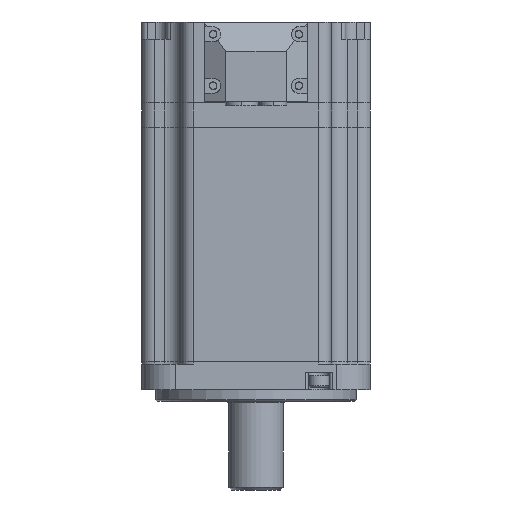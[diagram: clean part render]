
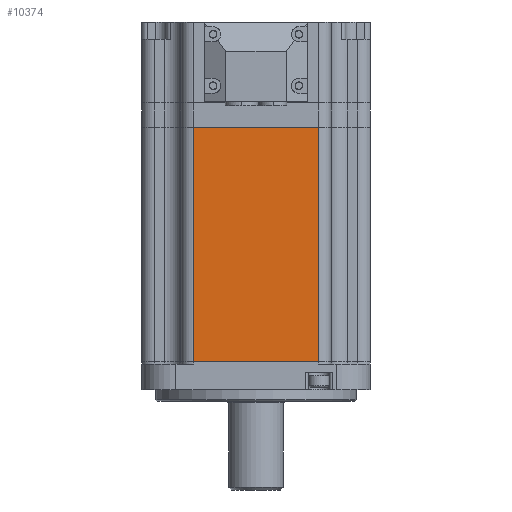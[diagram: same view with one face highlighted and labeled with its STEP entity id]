
A CAD part, front view. The second image highlights one B-rep face of the part: STEP entity #10374.
In plain terms, the highlighted planar face has unit normal (0, -1, 0).
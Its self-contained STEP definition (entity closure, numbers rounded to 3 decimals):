
#4872 = DIRECTION ( 'NONE',  ( -1., 0., 0. ) ) ;
#6538 = VECTOR ( 'NONE', #4872, 1000. ) ;
#6539 = CARTESIAN_POINT ( 'NONE',  ( -27.978, -42.874, 91.9 ) ) ;
#6540 = LINE ( 'NONE', #6539, #6538 ) ;
#6544 = CARTESIAN_POINT ( 'NONE',  ( 25.822, -42.874, 10. ) ) ;
#6685 = DIRECTION ( 'NONE',  ( 0., 0., -1. ) ) ;
#6686 = VECTOR ( 'NONE', #6685, 1000. ) ;
#6689 = CARTESIAN_POINT ( 'NONE',  ( 25.822, -42.874, 91.9 ) ) ;
#6690 = LINE ( 'NONE', #6689, #6686 ) ;
#6696 = CARTESIAN_POINT ( 'NONE',  ( 25.822, -42.874, 91.9 ) ) ;
#6789 = DIRECTION ( 'NONE',  ( -1., 0., 0. ) ) ;
#6791 = VECTOR ( 'NONE', #6789, 1000. ) ;
#6793 = CARTESIAN_POINT ( 'NONE',  ( -27.978, -42.874, 10. ) ) ;
#6795 = LINE ( 'NONE', #6793, #6791 ) ;
#6798 = CARTESIAN_POINT ( 'NONE',  ( -17.678, -42.874, 91.9 ) ) ;
#6800 = CARTESIAN_POINT ( 'NONE',  ( -17.678, -42.874, 10. ) ) ;
#6802 = DIRECTION ( 'NONE',  ( 0., 0., 1. ) ) ;
#6804 = VECTOR ( 'NONE', #6802, 1000. ) ;
#6806 = CARTESIAN_POINT ( 'NONE',  ( -17.678, -42.874, 91.9 ) ) ;
#6808 = LINE ( 'NONE', #6806, #6804 ) ;
#6809 = DIRECTION ( 'NONE',  ( -1., 0., 0. ) ) ;
#6810 = DIRECTION ( 'NONE',  ( 0., 1., 0. ) ) ;
#6812 = AXIS2_PLACEMENT_3D ( 'NONE', #6817, #6810, #6809 ) ;
#6817 = CARTESIAN_POINT ( 'NONE',  ( -22.178, -42.874, 91.9 ) ) ;
#6818 = PLANE ( 'NONE',  #6812 ) ;
#6819 = FACE_OUTER_BOUND ( 'NONE', #10375, .T. ) ;
#10311 = VERTEX_POINT ( 'NONE', #6544 ) ;
#10312 = ORIENTED_EDGE ( 'NONE', *, *, #10373, .F. ) ;
#10313 = ORIENTED_EDGE ( 'NONE', *, *, #10314, .T. ) ;
#10314 = EDGE_CURVE ( 'NONE', #10371, #10379, #6540, .T. ) ;
#10371 = VERTEX_POINT ( 'NONE', #6696 ) ;
#10373 = EDGE_CURVE ( 'NONE', #10371, #10311, #6690, .T. ) ;
#10374 = ADVANCED_FACE ( 'NONE', ( #6819 ), #6818, .F. ) ;
#10375 = EDGE_LOOP ( 'NONE', ( #10376, #10380, #10312, #10313 ) ) ;
#10376 = ORIENTED_EDGE ( 'NONE', *, *, #10377, .F. ) ;
#10377 = EDGE_CURVE ( 'NONE', #10378, #10379, #6808, .T. ) ;
#10378 = VERTEX_POINT ( 'NONE', #6800 ) ;
#10379 = VERTEX_POINT ( 'NONE', #6798 ) ;
#10380 = ORIENTED_EDGE ( 'NONE', *, *, #10381, .F. ) ;
#10381 = EDGE_CURVE ( 'NONE', #10311, #10378, #6795, .T. ) ;
